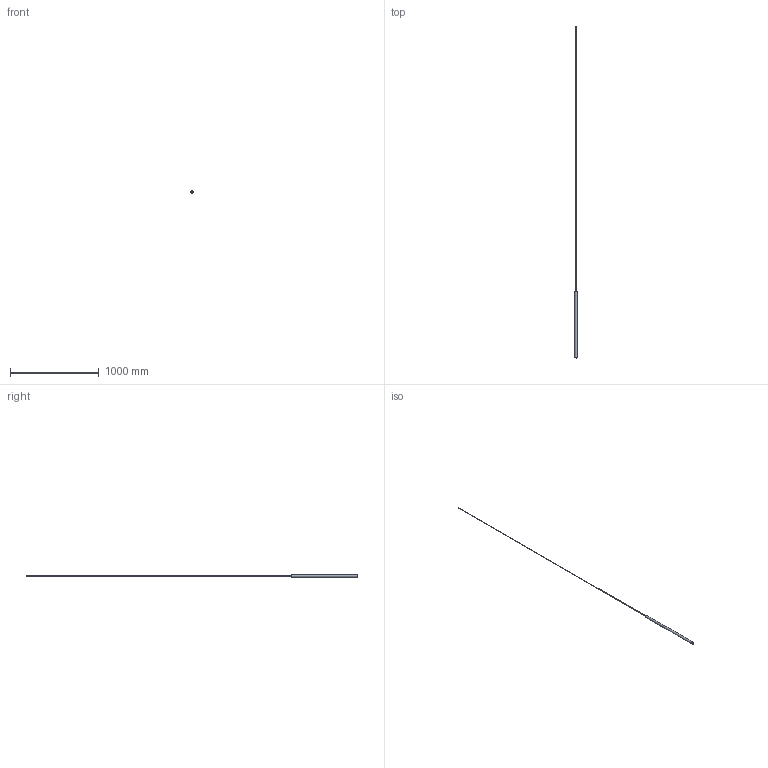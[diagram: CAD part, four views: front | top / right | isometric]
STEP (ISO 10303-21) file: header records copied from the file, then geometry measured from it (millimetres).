
FILE_DESCRIPTION(/* description */ (''),/* implementation_level */ '2;1');
FILE_NAME(/* name */ 'MISS 2.stp',/* time_stamp */ '2025-02-03T15:35:23+01:00',/* author */ ('n.bisotti'),/* organization */ (''),/* preprocessor_version */ 'ST-DEVELOPER v19.2',/* originating_system */ 'Autodesk Inventor 2023',/* authorisation */ '');
FILE_SCHEMA (('AUTOMOTIVE_DESIGN { 1 0 10303 214 3 1 1 }'));
Length unit declared in the file: centimetre
Products named in the file (1): 1610 - MISS 1
Bounding box: 25 x 3749 x 25 mm (x, y, z)
Volume: 4574.4 mm3; surface area: 162672.5 mm2
Topology: 1 solids, 2 shells, 9 faces, 12 edges, 8 vertices
Faces by surface type: plane 5, cylinder 4
Full cylindrical faces by diameter (mm): 5 x1, 21.5 x1, 23 x1, 25 x1
Entity records: 248 total; most frequent: DIRECTION 40, CARTESIAN_POINT 30, ORIENTED_EDGE 23, AXIS2_PLACEMENT_3D 18, EDGE_CURVE 12, EDGE_LOOP 11, FACE_OUTER_BOUND 9, ADVANCED_FACE 9
